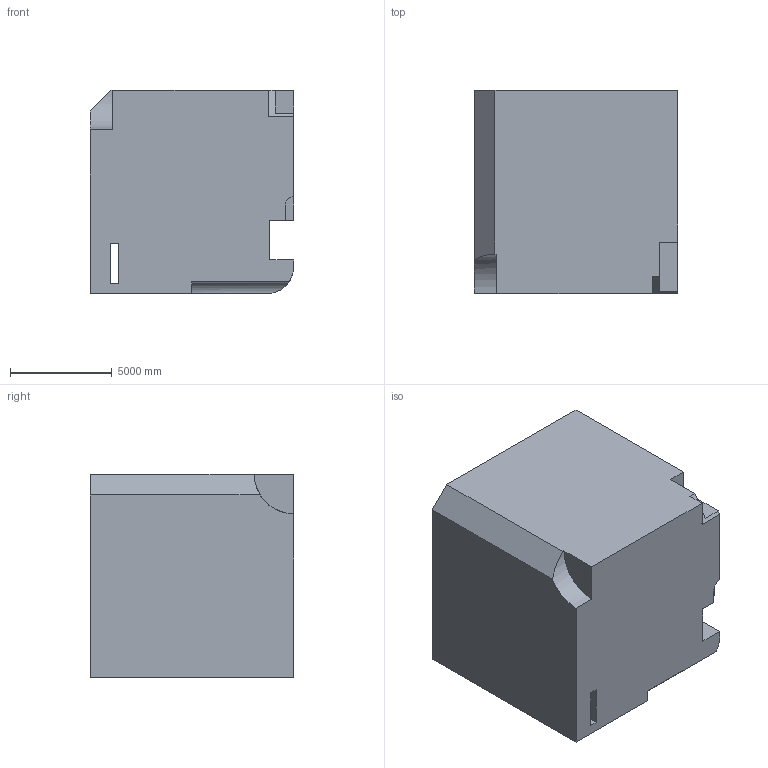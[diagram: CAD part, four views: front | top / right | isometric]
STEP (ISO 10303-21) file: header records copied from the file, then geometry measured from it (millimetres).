
FILE_DESCRIPTION (( 'STEP AP203' ), '1' );
FILE_NAME ('181.STEP', '2022-09-05T15:59:59', ( 'user' ), ( '' ), 'SwSTEP 2.0', 'SolidWorks 2021', '' );
FILE_SCHEMA (( 'CONFIG_CONTROL_DESIGN' ));
Length unit declared in the file: centimetre
Products named in the file (1): 181
Bounding box: 10000 x 10000 x 10000 mm (x, y, z)
Volume: 954100463633.5 mm3; surface area: 650292407.5 mm2
Topology: 1 solids, 1 shells, 28 faces, 78 edges, 52 vertices
Faces by surface type: plane 24, cylinder 4
Entity records: 1042 total; most frequent: CARTESIAN_POINT 236, ORIENTED_EDGE 156, DIRECTION 141, EDGE_CURVE 78, VECTOR 69, LINE 69, VERTEX_POINT 52, AXIS2_PLACEMENT_3D 36
